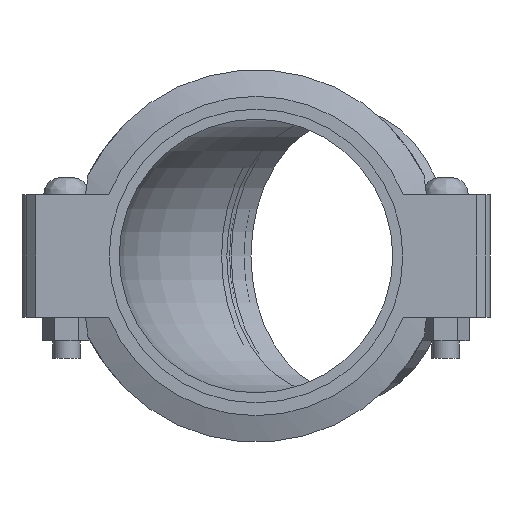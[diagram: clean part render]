
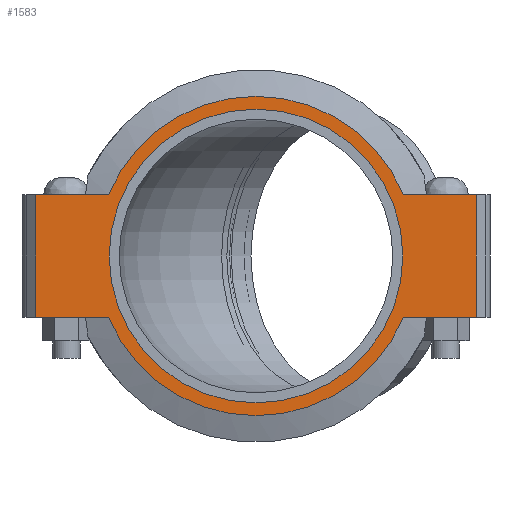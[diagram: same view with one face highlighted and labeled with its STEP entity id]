
A CAD part, left-side view. The second image highlights one B-rep face of the part: STEP entity #1583.
In plain terms, the highlighted planar face has unit normal (-1, 0, 0) as drawn and (0, 0, -1) by its records, which use the part's own axes.
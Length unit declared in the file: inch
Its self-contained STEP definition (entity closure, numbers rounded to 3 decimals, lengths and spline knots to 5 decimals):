
#123=LINE('',#2741,#212);
#132=LINE('',#2768,#221);
#136=LINE('',#2790,#225);
#138=LINE('',#2794,#227);
#145=LINE('',#2820,#234);
#148=LINE('',#2838,#237);
#212=VECTOR('',#2240,0.3937);
#221=VECTOR('',#2265,0.3937);
#225=VECTOR('',#2279,0.3937);
#227=VECTOR('',#2283,0.3937);
#234=VECTOR('',#2302,0.3937);
#237=VECTOR('',#2315,0.3937);
#296=FACE_BOUND('',#483,.T.);
#370=FACE_OUTER_BOUND('',#482,.T.);
#482=EDGE_LOOP('',(#1309,#1310,#1311,#1312,#1313,#1314,#1315,#1316));
#483=EDGE_LOOP('',(#1317));
#587=CIRCLE('',#1868,5.375);
#589=CIRCLE('',#1873,5.845);
#590=CIRCLE('',#1874,5.845);
#704=VERTEX_POINT('',#2736);
#705=VERTEX_POINT('',#2740);
#714=VERTEX_POINT('',#2765);
#715=VERTEX_POINT('',#2767);
#722=VERTEX_POINT('',#2789);
#723=VERTEX_POINT('',#2793);
#730=VERTEX_POINT('',#2818);
#731=VERTEX_POINT('',#2824);
#734=VERTEX_POINT('',#2834);
#888=EDGE_CURVE('',#705,#704,#123,.T.);
#901=EDGE_CURVE('',#715,#714,#132,.T.);
#910=EDGE_CURVE('',#705,#722,#136,.T.);
#912=EDGE_CURVE('',#723,#722,#138,.T.);
#924=EDGE_CURVE('',#730,#714,#145,.T.);
#926=EDGE_CURVE('',#731,#731,#587,.T.);
#931=EDGE_CURVE('',#730,#734,#148,.T.);
#935=EDGE_CURVE('',#704,#715,#589,.T.);
#936=EDGE_CURVE('',#734,#723,#590,.T.);
#1309=ORIENTED_EDGE('',*,*,#910,.F.);
#1310=ORIENTED_EDGE('',*,*,#888,.T.);
#1311=ORIENTED_EDGE('',*,*,#935,.T.);
#1312=ORIENTED_EDGE('',*,*,#901,.T.);
#1313=ORIENTED_EDGE('',*,*,#924,.F.);
#1314=ORIENTED_EDGE('',*,*,#931,.T.);
#1315=ORIENTED_EDGE('',*,*,#936,.T.);
#1316=ORIENTED_EDGE('',*,*,#912,.T.);
#1317=ORIENTED_EDGE('',*,*,#926,.T.);
#1417=PLANE('',#1872);
#1583=ADVANCED_FACE('',(#370,#296),#1417,.F.);
#1868=AXIS2_PLACEMENT_3D('',#2825,#2308,#2309);
#1872=AXIS2_PLACEMENT_3D('',#2884,#2318,#2319);
#1873=AXIS2_PLACEMENT_3D('',#2885,#2320,#2321);
#1874=AXIS2_PLACEMENT_3D('',#2886,#2322,#2323);
#2240=DIRECTION('',(-1.,0.,0.));
#2265=DIRECTION('',(-1.,0.,0.));
#2279=DIRECTION('',(0.,1.,0.));
#2283=DIRECTION('',(1.,0.,0.));
#2302=DIRECTION('',(0.,-1.,0.));
#2308=DIRECTION('center_axis',(0.,0.,1.));
#2309=DIRECTION('ref_axis',(1.,0.,0.));
#2315=DIRECTION('',(1.,0.,0.));
#2318=DIRECTION('center_axis',(0.,0.,1.));
#2319=DIRECTION('ref_axis',(-1.,0.,0.));
#2320=DIRECTION('center_axis',(0.,0.,-1.));
#2321=DIRECTION('ref_axis',(1.,0.,0.));
#2322=DIRECTION('center_axis',(0.,0.,-1.));
#2323=DIRECTION('ref_axis',(1.,0.,0.));
#2736=CARTESIAN_POINT('',(5.39458,-2.25,-1.315));
#2740=CARTESIAN_POINT('',(8.065,-2.25,-1.315));
#2741=CARTESIAN_POINT('',(-8.565,-2.25,-1.315));
#2765=CARTESIAN_POINT('',(-8.065,-2.25,-1.315));
#2767=CARTESIAN_POINT('',(-5.39458,-2.25,-1.315));
#2768=CARTESIAN_POINT('',(-8.565,-2.25,-1.315));
#2789=CARTESIAN_POINT('',(8.065,2.25,-1.315));
#2790=CARTESIAN_POINT('',(8.065,-1.125,-1.315));
#2793=CARTESIAN_POINT('',(5.39458,2.25,-1.315));
#2794=CARTESIAN_POINT('',(8.565,2.25,-1.315));
#2818=CARTESIAN_POINT('',(-8.065,2.25,-1.315));
#2820=CARTESIAN_POINT('',(-8.065,1.125,-1.315));
#2824=CARTESIAN_POINT('',(-5.375,0.,-1.315));
#2825=CARTESIAN_POINT('Origin',(0.,0.,-1.315));
#2834=CARTESIAN_POINT('',(-5.39458,2.25,-1.315));
#2838=CARTESIAN_POINT('',(8.565,2.25,-1.315));
#2884=CARTESIAN_POINT('Origin',(0.,0.,
-1.315));
#2885=CARTESIAN_POINT('Origin',(0.,0.,-1.315));
#2886=CARTESIAN_POINT('Origin',(0.,0.,-1.315));
